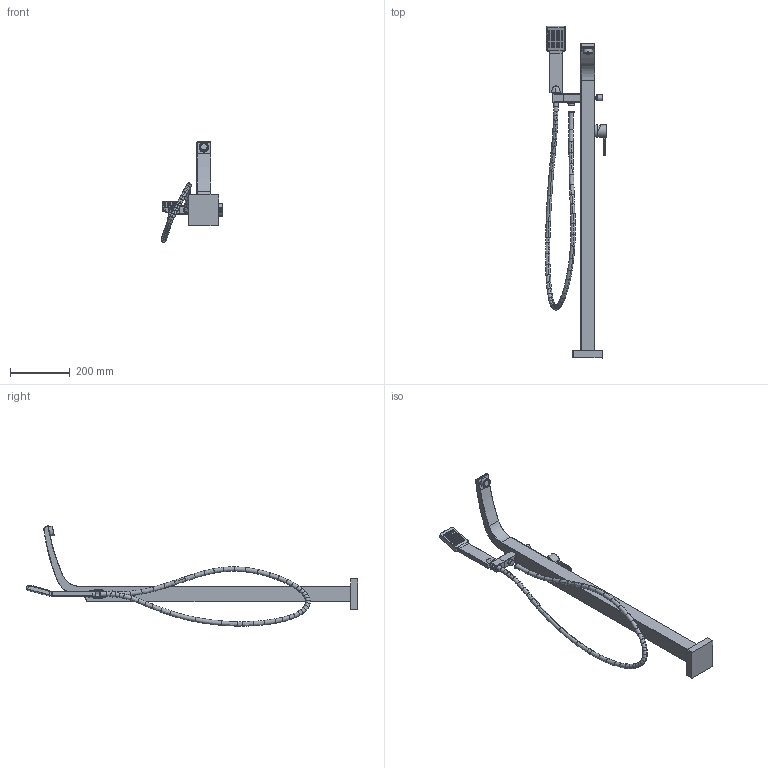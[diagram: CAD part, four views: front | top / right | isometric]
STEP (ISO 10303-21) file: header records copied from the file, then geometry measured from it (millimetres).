
FILE_DESCRIPTION(/* description */ (''),/* implementation_level */ '2;1');
FILE_NAME(/* name */ 'c:\worker\convert-fusion-r08\tmp\job-1\20\output\files\b0669eef-4a46-4a68-acd4-77eaf9db854d\5f6f7f87-ed91-450a-a98f-984048a7cc33.stp',/* time_stamp */ '2019-11-26T14:52:41+00:00',/* author */ (''),/* organization */ (''),/* preprocessor_version */ 'ST-DEVELOPER v18',/* originating_system */ 'Autodesk Translation Framework v8.12.0.6',/* authorisation */ '');
FILE_SCHEMA (('AUTOMOTIVE_DESIGN { 1 0 10303 214 3 1 1 }'));
Products named in the file (1): !DA5033
Bounding box: 205.53 x 1115.27 x 337.01 mm (x, y, z)
Volume: 3330585.4 mm3; surface area: 399440.4 mm2
Topology: 16 solids, 16 shells, 1342 faces, 2950 edges, 1736 vertices
Faces by surface type: cylinder 544, plane 386, sphere 209, bspline 96, torus 96, cone 11
Full cylindrical faces by diameter (mm): 1.8 x48, 4 x2, 5 x2, 8 x2, 14.2 x1, 15 x1, 16 x1, 20 x2, 20.5 x2, 22.8 x1, 24.2 x1, 27 x1, 28.2 x1, 32 x1, 42 x2
Entity records: 53677 total; most frequent: CARTESIAN_POINT 23667, DIRECTION 6861, ORIENTED_EDGE 5872, EDGE_CURVE 2936, AXIS2_PLACEMENT_3D 2781, VERTEX_POINT 1736, CIRCLE 1497, EDGE_LOOP 1454
